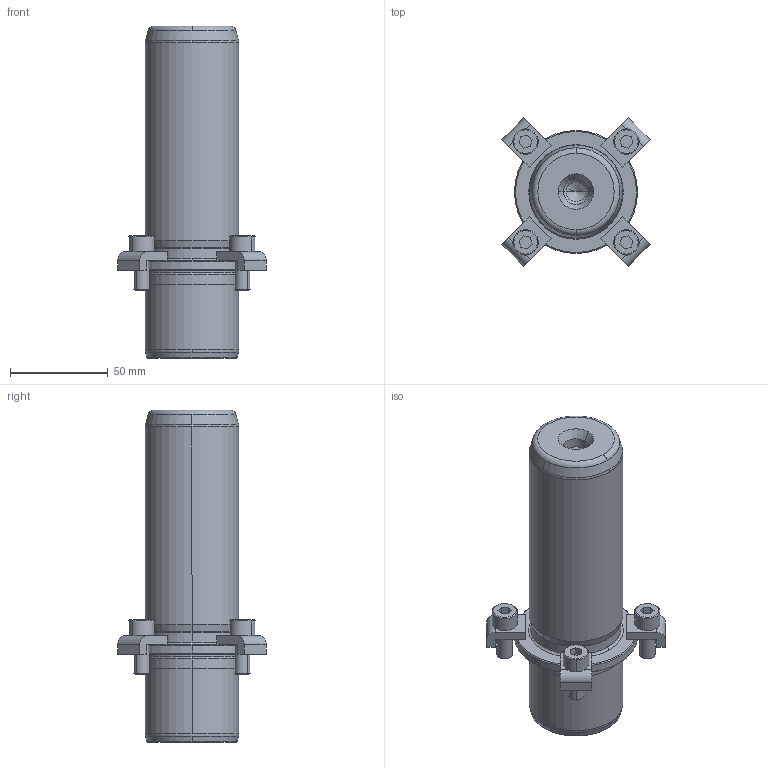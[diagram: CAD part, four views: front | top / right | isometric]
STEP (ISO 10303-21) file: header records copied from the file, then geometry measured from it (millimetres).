
FILE_DESCRIPTION((''),'2;1');
FILE_NAME('P21_048_125.stp','2008-12-23T13:36:59',(''),(''),'Mechanical Desktop 2009','Mechanical Desktop 2009',', , ');
FILE_SCHEMA(('CONFIG_CONTROL_DESIGN'));
Length unit declared in the file: millimetre
Products named in the file (2): Product; blmdl1
Assembly tree (1 placements, depth 2):
  Product
    blmdl1
Bounding box: 76.01 x 76.01 x 170 mm (x, y, z)
Volume: 316696.7 mm3; surface area: 43051.1 mm2
Topology: 9 solids, 9 shells, 195 faces, 477 edges, 309 vertices
Faces by surface type: plane 77, cylinder 52, cone 34, torus 16, bspline 16
Entity records: 6547 total; most frequent: CARTESIAN_POINT 1683, DIRECTION 1078, ORIENTED_EDGE 946, EDGE_CURVE 473, AXIS2_PLACEMENT_3D 424, VERTEX_POINT 309, CIRCLE 243, VECTOR 230
